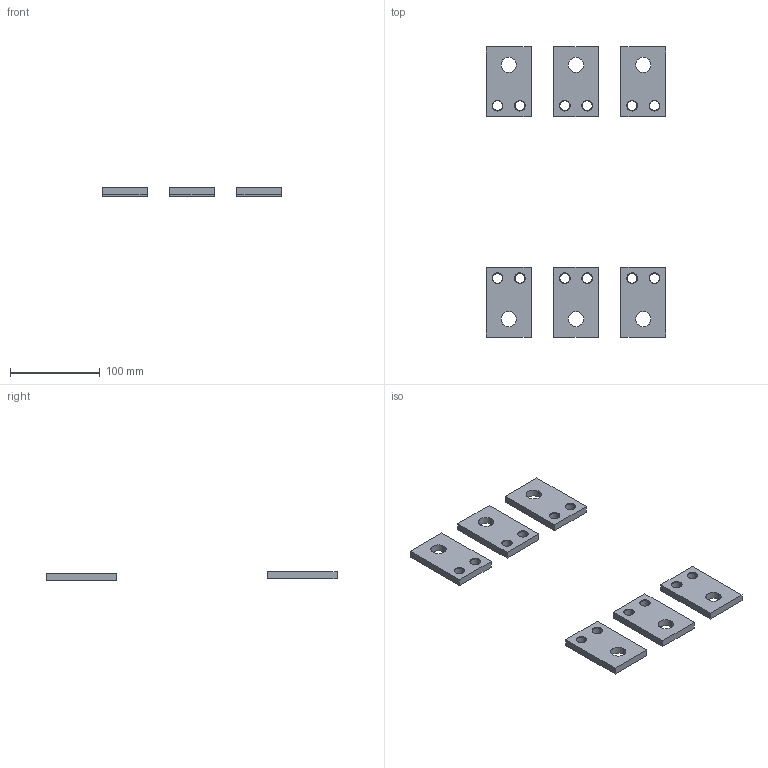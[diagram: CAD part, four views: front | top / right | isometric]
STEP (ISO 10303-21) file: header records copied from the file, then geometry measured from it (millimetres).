
FILE_DESCRIPTION (( 'STEP AP214' ), '1' );
FILE_NAME ('ÂÀ57-39 êîìïëåêò øèí (2).STEP', '2023-08-07T10:31:07', ( '' ), ( '' ), 'SwSTEP 2.0', 'SolidWorks 2018', '' );
FILE_SCHEMA (( 'AUTOMOTIVE_DESIGN' ));
Length unit declared in the file: millimetre
Products named in the file (1): ÂÀ57-39 êîìïëåêò øèí (2)
Bounding box: 200 x 323.4 x 10 mm (x, y, z)
Volume: 167128.4 mm3; surface area: 59846.9 mm2
Topology: 6 solids, 6 shells, 96 faces, 228 edges, 144 vertices
Faces by surface type: cylinder 36, plane 36, cone 24
Entity records: 3983 total; most frequent: DIRECTION 518, CARTESIAN_POINT 469, ORIENTED_EDGE 456, EDGE_CURVE 228, AXIS2_PLACEMENT_3D 193, VERTEX_POINT 144, LINE 132, VECTOR 132
